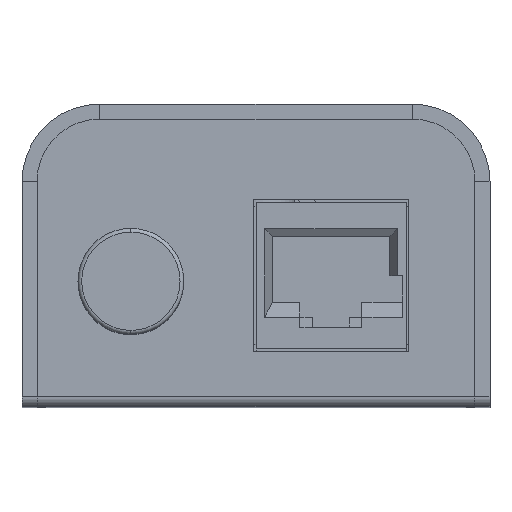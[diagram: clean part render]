
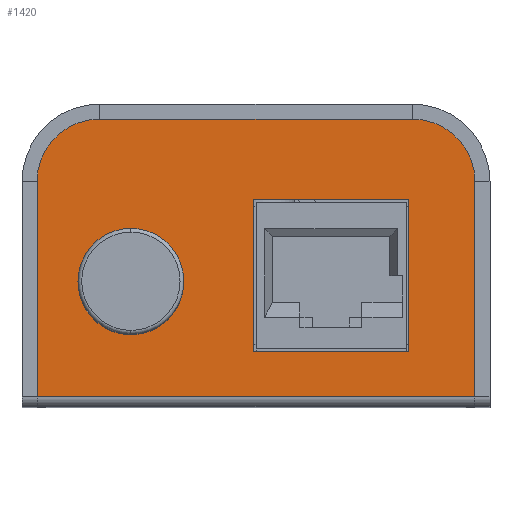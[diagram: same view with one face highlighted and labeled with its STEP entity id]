
A CAD part, top view. The second image highlights one B-rep face of the part: STEP entity #1420.
In plain terms, the highlighted planar face has unit normal (0, 0, 1).
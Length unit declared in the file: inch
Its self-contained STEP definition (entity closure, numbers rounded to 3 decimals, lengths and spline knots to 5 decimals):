
#240=DIRECTION('',(-1.,0.,0.));
#241=VECTOR('',#240,1.75);
#242=CARTESIAN_POINT('',(0.875,0.0399,1.1819));
#243=LINE('',#242,#241);
#262=DIRECTION('',(0.,-1.,0.));
#263=VECTOR('',#262,0.8601);
#264=CARTESIAN_POINT('',(0.875,0.9,1.1819));
#265=LINE('',#264,#263);
#279=CARTESIAN_POINT('',(0.625,0.9,1.1819));
#280=DIRECTION('',(0.,0.,1.));
#281=DIRECTION('',(1.,0.,0.));
#282=AXIS2_PLACEMENT_3D('',#279,#280,#281);
#284=DIRECTION('',(0.,-1.,0.));
#285=VECTOR('',#284,0.605);
#286=CARTESIAN_POINT('',(0.61,0.827,1.1819));
#287=LINE('',#286,#285);
#288=DIRECTION('',(1.,0.,0.));
#289=VECTOR('',#288,0.62);
#290=CARTESIAN_POINT('',(-0.01,0.827,1.1819));
#291=LINE('',#290,#289);
#292=DIRECTION('',(0.,1.,0.));
#293=VECTOR('',#292,0.605);
#294=CARTESIAN_POINT('',(-0.01,0.222,1.1819));
#295=LINE('',#294,#293);
#296=DIRECTION('',(-1.,0.,0.));
#297=VECTOR('',#296,0.62);
#298=CARTESIAN_POINT('',(0.61,0.222,1.1819));
#299=LINE('',#298,#297);
#300=DIRECTION('',(-1.,0.,0.));
#301=VECTOR('',#300,1.25);
#302=CARTESIAN_POINT('',(0.625,1.15,1.1819));
#303=LINE('',#302,#301);
#304=CARTESIAN_POINT('',(-0.5,0.5,1.1819));
#305=DIRECTION('',(0.,0.,1.));
#306=DIRECTION('',(0.762,0.647,0.));
#307=AXIS2_PLACEMENT_3D('',#304,#305,#306);
#309=DIRECTION('',(0.,1.,0.));
#310=VECTOR('',#309,0.21233);
#311=CARTESIAN_POINT('',(-0.625,0.39384,1.1819));
#312=LINE('',#311,#310);
#313=CARTESIAN_POINT('',(-0.5,0.5,1.1819));
#314=DIRECTION('',(0.,0.,1.));
#315=DIRECTION('',(-0.762,-0.647,0.));
#316=AXIS2_PLACEMENT_3D('',#313,#314,#315);
#318=DIRECTION('',(0.,-1.,0.));
#319=VECTOR('',#318,0.21233);
#320=CARTESIAN_POINT('',(-0.375,0.60616,1.1819));
#321=LINE('',#320,#319);
#389=CARTESIAN_POINT('',(-0.625,0.9,1.1819));
#390=DIRECTION('',(0.,0.,1.));
#391=DIRECTION('',(0.,1.,0.));
#392=AXIS2_PLACEMENT_3D('',#389,#390,#391);
#394=DIRECTION('',(0.,-1.,0.));
#395=VECTOR('',#394,0.8601);
#396=CARTESIAN_POINT('',(-0.875,0.9,1.1819));
#397=LINE('',#396,#395);
#712=CARTESIAN_POINT('',(0.875,0.0399,1.1819));
#714=VERTEX_POINT('',#712);
#720=CARTESIAN_POINT('',(-0.875,0.0399,1.1819));
#722=VERTEX_POINT('',#720);
#760=CARTESIAN_POINT('',(0.61,0.827,1.1819));
#761=CARTESIAN_POINT('',(0.61,0.222,1.1819));
#762=VERTEX_POINT('',#760);
#763=VERTEX_POINT('',#761);
#764=CARTESIAN_POINT('',(-0.01,0.222,1.1819));
#765=VERTEX_POINT('',#764);
#766=CARTESIAN_POINT('',(-0.01,0.827,1.1819));
#767=VERTEX_POINT('',#766);
#809=CARTESIAN_POINT('',(0.625,1.15,1.1819));
#811=VERTEX_POINT('',#809);
#814=CARTESIAN_POINT('',(0.875,0.9,1.1819));
#815=VERTEX_POINT('',#814);
#817=CARTESIAN_POINT('',(-0.875,0.9,1.1819));
#819=VERTEX_POINT('',#817);
#822=CARTESIAN_POINT('',(-0.625,1.15,1.1819));
#823=VERTEX_POINT('',#822);
#888=CARTESIAN_POINT('',(-0.375,0.60616,1.1819));
#889=CARTESIAN_POINT('',(-0.625,0.60616,1.1819));
#890=VERTEX_POINT('',#888);
#891=VERTEX_POINT('',#889);
#892=CARTESIAN_POINT('',(-0.375,0.39384,1.1819));
#893=VERTEX_POINT('',#892);
#894=CARTESIAN_POINT('',(-0.625,0.39384,1.1819));
#895=VERTEX_POINT('',#894);
#1385=CARTESIAN_POINT('',(0.875,1.15,1.1819));
#1386=DIRECTION('',(0.,0.,1.));
#1387=DIRECTION('',(0.,-1.,0.));
#1388=AXIS2_PLACEMENT_3D('',#1385,#1386,#1387);
#1389=PLANE('',#1388);
#1390=ORIENTED_EDGE('',*,*,#1365,.F.);
#1391=ORIENTED_EDGE('',*,*,#1350,.T.);
#1392=ORIENTED_EDGE('',*,*,#1321,.T.);
#1394=ORIENTED_EDGE('',*,*,#1393,.F.);
#1396=ORIENTED_EDGE('',*,*,#1395,.F.);
#1397=ORIENTED_EDGE('',*,*,#1376,.F.);
#1398=EDGE_LOOP('',(#1390,#1391,#1392,#1394,#1396,#1397));
#1399=FACE_OUTER_BOUND('',#1398,.F.);
#1401=ORIENTED_EDGE('',*,*,#1400,.F.);
#1403=ORIENTED_EDGE('',*,*,#1402,.F.);
#1405=ORIENTED_EDGE('',*,*,#1404,.F.);
#1407=ORIENTED_EDGE('',*,*,#1406,.F.);
#1408=EDGE_LOOP('',(#1401,#1403,#1405,#1407));
#1409=FACE_BOUND('',#1408,.F.);
#1411=ORIENTED_EDGE('',*,*,#1410,.T.);
#1413=ORIENTED_EDGE('',*,*,#1412,.F.);
#1415=ORIENTED_EDGE('',*,*,#1414,.T.);
#1417=ORIENTED_EDGE('',*,*,#1416,.F.);
#1418=EDGE_LOOP('',(#1411,#1413,#1415,#1417));
#1419=FACE_BOUND('',#1418,.F.);
#1420=ADVANCED_FACE('',(#1399,#1409,#1419),#1389,.T.);
#283=CIRCLE('',#282,0.25);
#308=CIRCLE('',#307,0.164);
#317=CIRCLE('',#316,0.164);
#393=CIRCLE('',#392,0.25);
#1321=EDGE_CURVE('',#714,#722,#243,.T.);
#1350=EDGE_CURVE('',#815,#714,#265,.T.);
#1365=EDGE_CURVE('',#815,#811,#283,.T.);
#1376=EDGE_CURVE('',#811,#823,#303,.T.);
#1393=EDGE_CURVE('',#819,#722,#397,.T.);
#1395=EDGE_CURVE('',#823,#819,#393,.T.);
#1400=EDGE_CURVE('',#762,#763,#287,.T.);
#1402=EDGE_CURVE('',#767,#762,#291,.T.);
#1404=EDGE_CURVE('',#765,#767,#295,.T.);
#1406=EDGE_CURVE('',#763,#765,#299,.T.);
#1410=EDGE_CURVE('',#890,#891,#308,.T.);
#1412=EDGE_CURVE('',#895,#891,#312,.T.);
#1414=EDGE_CURVE('',#895,#893,#317,.T.);
#1416=EDGE_CURVE('',#890,#893,#321,.T.);
